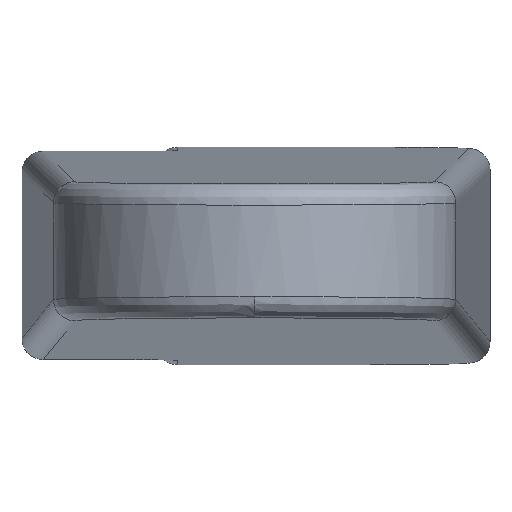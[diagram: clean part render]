
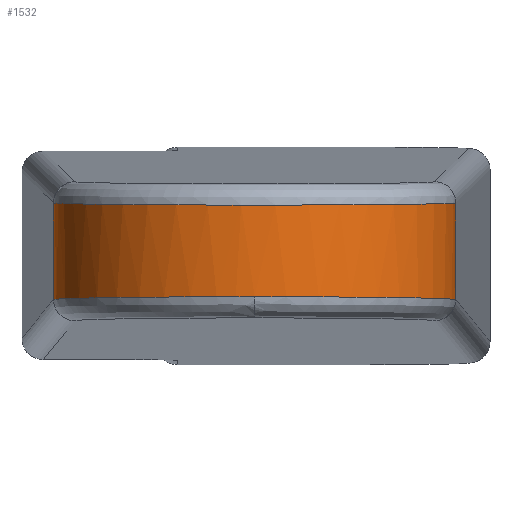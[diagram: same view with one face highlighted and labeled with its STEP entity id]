
A CAD part, top view. The second image highlights one B-rep face of the part: STEP entity #1532.
In plain terms, the highlighted cylindrical face has radius 9.501 mm (diameter 19.002 mm), a partial arc.
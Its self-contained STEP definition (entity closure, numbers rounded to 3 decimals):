
#24 =( BOUNDED_CURVE ( )  B_SPLINE_CURVE ( 3, ( #1388, #286, #771, #164 ),
 .UNSPECIFIED., .F., .T. ) 
 B_SPLINE_CURVE_WITH_KNOTS ( ( 4, 4 ),
 ( 0., 1.558 ),
 .UNSPECIFIED. ) 
 CURVE ( )  GEOMETRIC_REPRESENTATION_ITEM ( )  RATIONAL_B_SPLINE_CURVE ( ( 1., 0.808, 0.808, 1. ) ) 
 REPRESENTATION_ITEM ( '' )  );
#111 = ORIENTED_EDGE ( 'NONE', *, *, #688, .T. ) ;
#115 = CARTESIAN_POINT ( 'NONE',  ( 1.487, 7.42, 151.124 ) ) ;
#164 = CARTESIAN_POINT ( 'NONE',  ( 20.487, 2.851, 151.124 ) ) ;
#188 = CARTESIAN_POINT ( 'NONE',  ( 1.487, 7.42, 151.124 ) ) ;
#284 = CARTESIAN_POINT ( 'NONE',  ( 1.487, 2.851, 151.124 ) ) ;
#286 = CARTESIAN_POINT ( 'NONE',  ( 16.495, 2.971, 160.501 ) ) ;
#361 = FACE_OUTER_BOUND ( 'NONE', #1272, .T. ) ;
#459 = DIRECTION ( 'NONE',  ( 0., 1., 0. ) ) ;
#460 = CYLINDRICAL_SURFACE ( 'NONE', #1400, 9.501 ) ;
#488 = DIRECTION ( 'NONE',  ( 0., 1., 0. ) ) ;
#595 = CARTESIAN_POINT ( 'NONE',  ( 1.559, 2.921, 156.632 ) ) ;
#637 = EDGE_CURVE ( 'NONE', #1353, #670, #669, .T. ) ;
#641 = CARTESIAN_POINT ( 'NONE',  ( 20.487, 2.851, 151.124 ) ) ;
#654 = EDGE_CURVE ( 'NONE', #1353, #1408, #1582, .T. ) ;
#669 =( BOUNDED_CURVE ( )  B_SPLINE_CURVE ( 3, ( #959, #595, #1447, #1201 ),
 .UNSPECIFIED., .F., .T. ) 
 B_SPLINE_CURVE_WITH_KNOTS ( ( 4, 4 ),
 ( 4.725, 6.283 ),
 .UNSPECIFIED. ) 
 CURVE ( )  GEOMETRIC_REPRESENTATION_ITEM ( )  RATIONAL_B_SPLINE_CURVE ( ( 1., 0.808, 0.808, 1. ) ) 
 REPRESENTATION_ITEM ( '' )  );
#670 = VERTEX_POINT ( 'NONE', #1437 ) ;
#688 = EDGE_CURVE ( 'NONE', #1063, #863, #1090, .T. ) ;
#709 = EDGE_CURVE ( 'NONE', #863, #1408, #1222, .T. ) ;
#724 = CARTESIAN_POINT ( 'NONE',  ( 20.245, 7.182, 169.638 ) ) ;
#730 = CARTESIAN_POINT ( 'NONE',  ( 20.487, 7.42, 151.124 ) ) ;
#737 = VECTOR ( 'NONE', #459, 1000. ) ;
#771 = CARTESIAN_POINT ( 'NONE',  ( 20.415, 2.921, 156.632 ) ) ;
#849 = CARTESIAN_POINT ( 'NONE',  ( 20.487, 7.42, 151.124 ) ) ;
#854 = ORIENTED_EDGE ( 'NONE', *, *, #1079, .T. ) ;
#863 = VERTEX_POINT ( 'NONE', #730 ) ;
#959 = CARTESIAN_POINT ( 'NONE',  ( 1.487, 2.851, 151.124 ) ) ;
#964 = ORIENTED_EDGE ( 'NONE', *, *, #654, .F. ) ;
#1036 = ORIENTED_EDGE ( 'NONE', *, *, #637, .T. ) ;
#1063 = VERTEX_POINT ( 'NONE', #641 ) ;
#1074 = CARTESIAN_POINT ( 'NONE',  ( 1.487, -0.015, 151.124 ) ) ;
#1079 = EDGE_CURVE ( 'NONE', #670, #1063, #24, .T. ) ;
#1090 = LINE ( 'NONE', #1320, #1148 ) ;
#1091 = DIRECTION ( 'NONE',  ( 0., 1., 0. ) ) ;
#1148 = VECTOR ( 'NONE', #488, 1000. ) ;
#1201 = CARTESIAN_POINT ( 'NONE',  ( 10.987, 2.971, 160.501 ) ) ;
#1219 = CARTESIAN_POINT ( 'NONE',  ( 1.729, 7.182, 169.638 ) ) ;
#1222 =( BOUNDED_CURVE ( )  B_SPLINE_CURVE ( 3, ( #849, #724, #1219, #115 ),
 .UNSPECIFIED., .F., .T. ) 
 B_SPLINE_CURVE_WITH_KNOTS ( ( 4, 4 ),
 ( 1.584, 4.699 ),
 .UNSPECIFIED. ) 
 CURVE ( )  GEOMETRIC_REPRESENTATION_ITEM ( )  RATIONAL_B_SPLINE_CURVE ( ( 1., 0.342, 0.342, 1. ) ) 
 REPRESENTATION_ITEM ( '' )  );
#1272 = EDGE_LOOP ( 'NONE', ( #111, #1460, #964, #1036, #854 ) ) ;
#1320 = CARTESIAN_POINT ( 'NONE',  ( 20.487, -0.015, 151.124 ) ) ;
#1331 = CARTESIAN_POINT ( 'NONE',  ( 10.987, -0.015, 151. ) ) ;
#1353 = VERTEX_POINT ( 'NONE', #284 ) ;
#1388 = CARTESIAN_POINT ( 'NONE',  ( 10.987, 2.971, 160.501 ) ) ;
#1400 = AXIS2_PLACEMENT_3D ( 'NONE', #1331, #1091, #1438 ) ;
#1408 = VERTEX_POINT ( 'NONE', #188 ) ;
#1437 = CARTESIAN_POINT ( 'NONE',  ( 10.987, 2.971, 160.501 ) ) ;
#1438 = DIRECTION ( 'NONE',  ( -1., 0., 0. ) ) ;
#1447 = CARTESIAN_POINT ( 'NONE',  ( 5.479, 2.971, 160.501 ) ) ;
#1460 = ORIENTED_EDGE ( 'NONE', *, *, #709, .T. ) ;
#1532 = ADVANCED_FACE ( 'NONE', ( #361 ), #460, .T. ) ;
#1582 = LINE ( 'NONE', #1074, #737 ) ;
